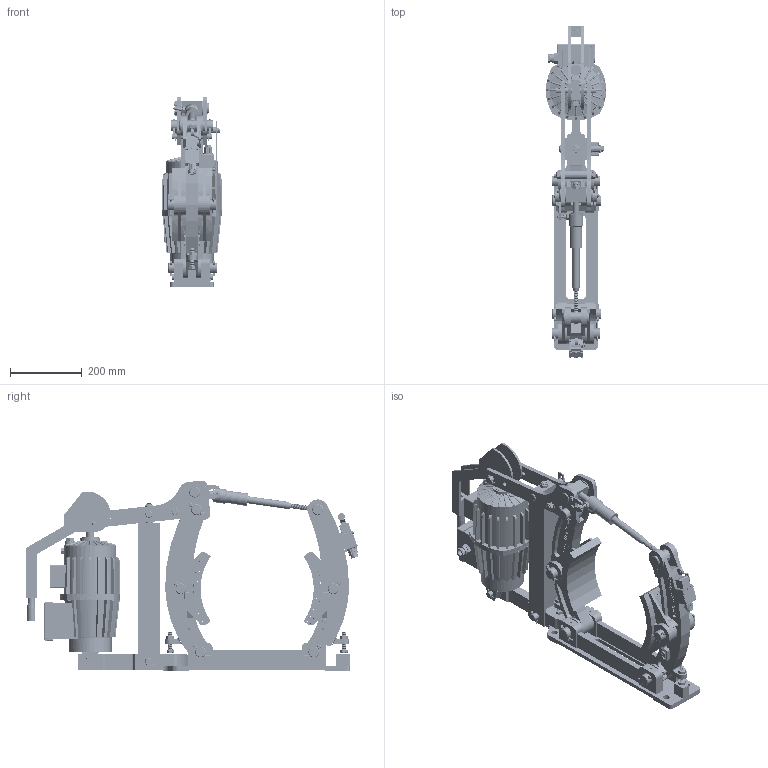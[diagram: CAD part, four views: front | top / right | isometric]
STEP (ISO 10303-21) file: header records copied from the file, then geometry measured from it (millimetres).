
FILE_DESCRIPTION((''),'2;1');
FILE_NAME('4459_314_502_E00001139','2018-01-25T',('VORO'),(''),'CREO PARAMETRIC BY PTC INC, 2017170','CREO PARAMETRIC BY PTC INC, 2017170','');
FILE_SCHEMA(('CONFIG_CONTROL_DESIGN'));
Products named in the file (1): 4459_314_502_E00001139
Bounding box: 168.01 x 923.63 x 530.97 mm (x, y, z)
Surface area: 1983226.6 mm2 (no closed solid volume)
Topology: 0 solids, 4951 shells, 5477 faces, 34533 edges, 33437 vertices
Faces by surface type: plane 2669, cylinder 1947, cone 649, torus 177, bspline 35
Entity records: 560945 total; most frequent: CARTESIAN_POINT 150258, PRESENTATION_STYLE_ASSIGNMENT 44954, DIRECTION 40052, STYLED_ITEM 39477, ORIENTED_EDGE 35623, CURVE_STYLE 34526, EDGE_CURVE 34526, VERTEX_POINT 33441
